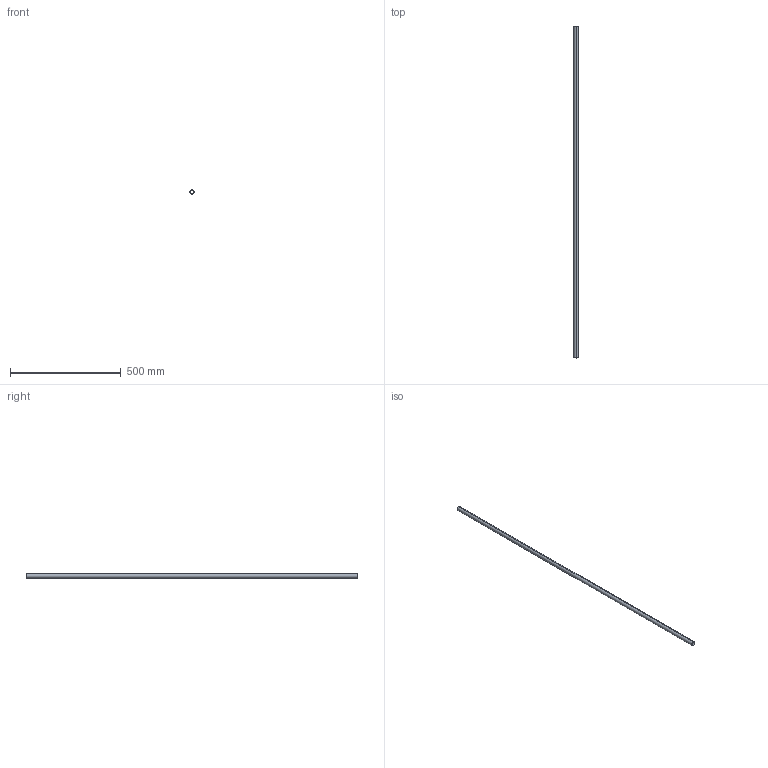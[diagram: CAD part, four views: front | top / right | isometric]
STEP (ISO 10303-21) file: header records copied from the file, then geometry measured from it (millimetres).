
FILE_DESCRIPTION (( 'STEP AP214' ), '1' );
FILE_NAME ('PST20-1500.STEP', '2019-10-29T09:02:10', ( '微软用户' ), ( '微软中国' ), 'SwSTEP 2.0', 'SolidWorks 2016', '' );
FILE_SCHEMA (( 'AUTOMOTIVE_DESIGN' ));
Length unit declared in the file: millimetre
Products named in the file (1): PST20-1500
Bounding box: 20 x 1500 x 20 mm (x, y, z)
Volume: 72382.3 mm3; surface area: 181052.2 mm2
Topology: 1 solids, 1 shells, 6 faces, 12 edges, 8 vertices
Faces by surface type: cylinder 4, plane 2
Entity records: 202 total; most frequent: DIRECTION 34, CARTESIAN_POINT 27, ORIENTED_EDGE 24, AXIS2_PLACEMENT_3D 15, EDGE_CURVE 12, VERTEX_POINT 8, CIRCLE 8, EDGE_LOOP 8
